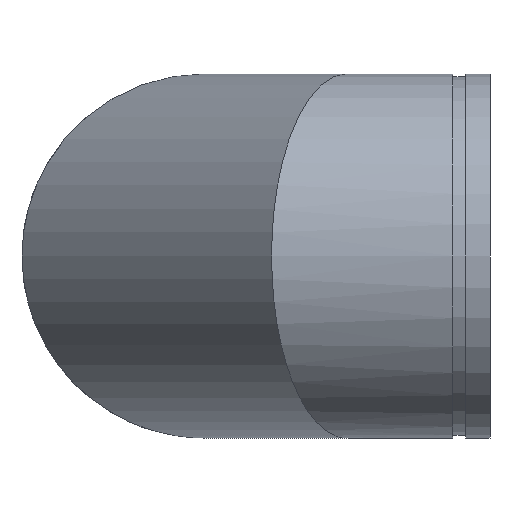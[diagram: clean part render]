
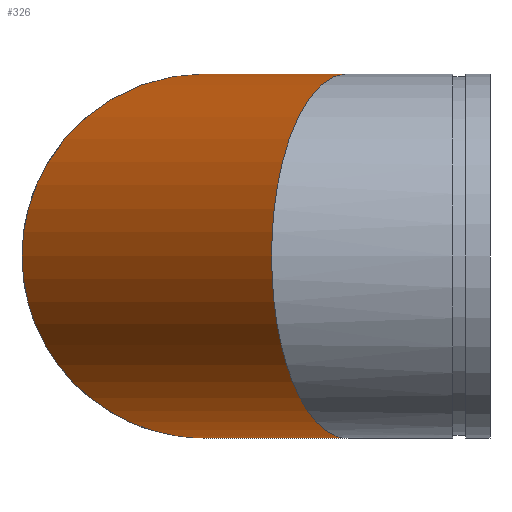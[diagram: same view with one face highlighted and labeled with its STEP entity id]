
A CAD part, left-side view. The second image highlights one B-rep face of the part: STEP entity #326.
In plain terms, the highlighted cylindrical face has radius 177.8 mm (diameter 355.6 mm), a full revolution.
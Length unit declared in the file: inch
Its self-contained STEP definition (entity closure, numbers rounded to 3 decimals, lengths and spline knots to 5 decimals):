
#51=ELLIPSE('',#383,7.57675,7.);
#52=ELLIPSE('',#384,7.57675,7.);
#53=ELLIPSE('',#385,7.57675,7.);
#54=ELLIPSE('',#388,7.57675,7.);
#55=ELLIPSE('',#389,7.57675,7.);
#56=ELLIPSE('',#390,7.57675,7.);
#82=FACE_OUTER_BOUND('',#103,.T.);
#103=EDGE_LOOP('',(#269,#270,#271,#272,#273,#274,#275,#276));
#115=LINE('',#606,#125);
#125=VECTOR('',#494,7.);
#165=VERTEX_POINT('',#596);
#166=VERTEX_POINT('',#598);
#167=VERTEX_POINT('',#600);
#168=VERTEX_POINT('',#605);
#169=VERTEX_POINT('',#607);
#170=VERTEX_POINT('',#609);
#201=EDGE_CURVE('',#165,#166,#51,.T.);
#202=EDGE_CURVE('',#167,#166,#52,.T.);
#203=EDGE_CURVE('',#167,#165,#53,.T.);
#204=EDGE_CURVE('',#165,#168,#115,.T.);
#205=EDGE_CURVE('',#168,#169,#54,.T.);
#206=EDGE_CURVE('',#170,#169,#55,.T.);
#207=EDGE_CURVE('',#170,#168,#56,.T.);
#269=ORIENTED_EDGE('',*,*,#203,.F.);
#270=ORIENTED_EDGE('',*,*,#202,.T.);
#271=ORIENTED_EDGE('',*,*,#201,.F.);
#272=ORIENTED_EDGE('',*,*,#204,.T.);
#273=ORIENTED_EDGE('',*,*,#205,.T.);
#274=ORIENTED_EDGE('',*,*,#206,.F.);
#275=ORIENTED_EDGE('',*,*,#207,.T.);
#276=ORIENTED_EDGE('',*,*,#204,.F.);
#293=CYLINDRICAL_SURFACE('',#387,7.);
#326=ADVANCED_FACE('',(#82),#293,.T.);
#383=AXIS2_PLACEMENT_3D('',#599,#484,#485);
#384=AXIS2_PLACEMENT_3D('',#601,#486,#487);
#385=AXIS2_PLACEMENT_3D('',#602,#488,#489);
#387=AXIS2_PLACEMENT_3D('',#604,#492,#493);
#388=AXIS2_PLACEMENT_3D('',#608,#495,#496);
#389=AXIS2_PLACEMENT_3D('',#610,#497,#498);
#390=AXIS2_PLACEMENT_3D('',#611,#499,#500);
#484=DIRECTION('center_axis',(-0.383,-0.924,0.));
#485=DIRECTION('ref_axis',(0.924,-0.383,0.));
#486=DIRECTION('center_axis',(0.383,0.924,0.));
#487=DIRECTION('ref_axis',(0.924,-0.383,0.));
#488=DIRECTION('center_axis',(-0.383,-0.924,0.));
#489=DIRECTION('ref_axis',(0.924,-0.383,0.));
#492=DIRECTION('center_axis',(-0.707,-0.707,0.));
#493=DIRECTION('ref_axis',(0.707,-0.707,0.));
#494=DIRECTION('',(0.707,0.707,0.));
#495=DIRECTION('center_axis',(-0.924,-0.383,0.));
#496=DIRECTION('ref_axis',(0.383,-0.924,0.));
#497=DIRECTION('center_axis',(0.924,0.383,0.));
#498=DIRECTION('ref_axis',(0.383,-0.924,0.));
#499=DIRECTION('center_axis',(-0.924,-0.383,0.));
#500=DIRECTION('ref_axis',(0.383,-0.924,0.));
#596=CARTESIAN_POINT('',(-7.,-2.60051,0.));
#598=CARTESIAN_POINT('',(0.,-5.5,-7.));
#599=CARTESIAN_POINT('Origin',(0.,-5.5,
0.));
#600=CARTESIAN_POINT('',(0.,-5.5,7.));
#601=CARTESIAN_POINT('Origin',(0.,-5.5,0.));
#602=CARTESIAN_POINT('Origin',(0.,-5.5,
0.));
#604=CARTESIAN_POINT('Origin',(5.5,0.,0.));
#605=CARTESIAN_POINT('',(2.60051,7.,0.));
#606=CARTESIAN_POINT('',(0.55025,4.94975,0.));
#607=CARTESIAN_POINT('',(5.5,0.,-7.));
#608=CARTESIAN_POINT('Origin',(5.5,0.,0.));
#609=CARTESIAN_POINT('',(5.5,0.,7.));
#610=CARTESIAN_POINT('Origin',(5.5,0.,0.));
#611=CARTESIAN_POINT('Origin',(5.5,0.,0.));
